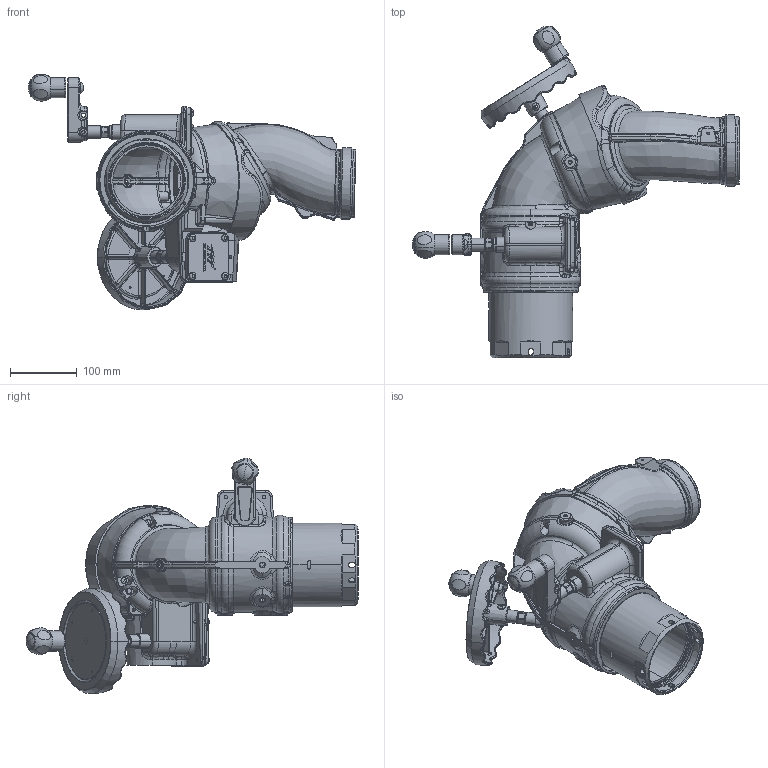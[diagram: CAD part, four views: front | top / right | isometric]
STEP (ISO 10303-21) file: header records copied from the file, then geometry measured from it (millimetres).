
FILE_DESCRIPTION (( 'STEP AP203' ), '1' );
FILE_NAME ('Y4-MP1A_Horizontal.STEP', '2014-07-03T18:06:55', ( '' ), ( '' ), 'SwSTEP 2.0', 'SolidWorks 2014', '' );
FILE_SCHEMA (( 'CONFIG_CONTROL_DESIGN' ));
Products named in the file (1): Y4-MP1A_Horizontal
Bounding box: 491.19 x 497.88 x 353.39 mm (x, y, z)
Surface area: 631855.2 mm2 (no closed solid volume)
Topology: 0 solids, 91 shells, 1923 faces, 6480 edges, 4470 vertices
Faces by surface type: bspline 587, plane 483, cylinder 409, torus 232, cone 193, sphere 19
Entity records: 127893 total; most frequent: CARTESIAN_POINT 78037, ORIENTED_EDGE 10438, DIRECTION 8999, EDGE_CURVE 6456, VERTEX_POINT 4466, AXIS2_PLACEMENT_3D 3458, EDGE_LOOP 2126, CIRCLE 2121
